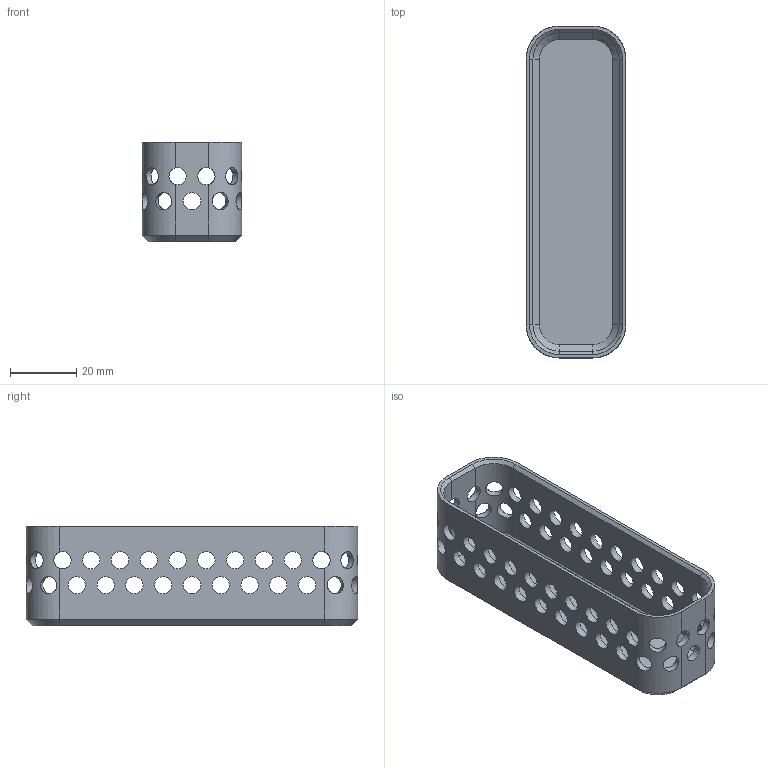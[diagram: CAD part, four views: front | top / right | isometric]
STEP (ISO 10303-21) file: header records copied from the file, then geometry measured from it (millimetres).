
FILE_DESCRIPTION(/* description */ (''),/* implementation_level */ '2;1');
FILE_NAME(/* name */ 'Box 3x10x3.step',/* time_stamp */ '2023-12-22T17:05:56+01:00',/* author */ (''),/* organization */ (''),/* preprocessor_version */ 'ST-DEVELOPER v20',/* originating_system */ 'Autodesk Translation Framework v12.14.0.127',/* authorisation */ '');
FILE_SCHEMA (('AUTOMOTIVE_DESIGN { 1 0 10303 214 3 1 1 }'));
Length unit declared in the file: millimetre
Products named in the file (1): Box 2
Bounding box: 30 x 100 x 30 mm (x, y, z)
Volume: 16549.1 mm3; surface area: 18317.3 mm2
Topology: 1 solids, 1 shells, 99 faces, 356 edges, 244 vertices
Faces by surface type: cylinder 64, plane 23, cone 12
Full cylindrical faces by diameter (mm): 5.2 x56
Entity records: 5154 total; most frequent: CARTESIAN_POINT 1900, ORIENTED_EDGE 712, DIRECTION 588, EDGE_CURVE 356, VERTEX_POINT 244, AXIS2_PLACEMENT_3D 224, EDGE_LOOP 196, LINE 140
